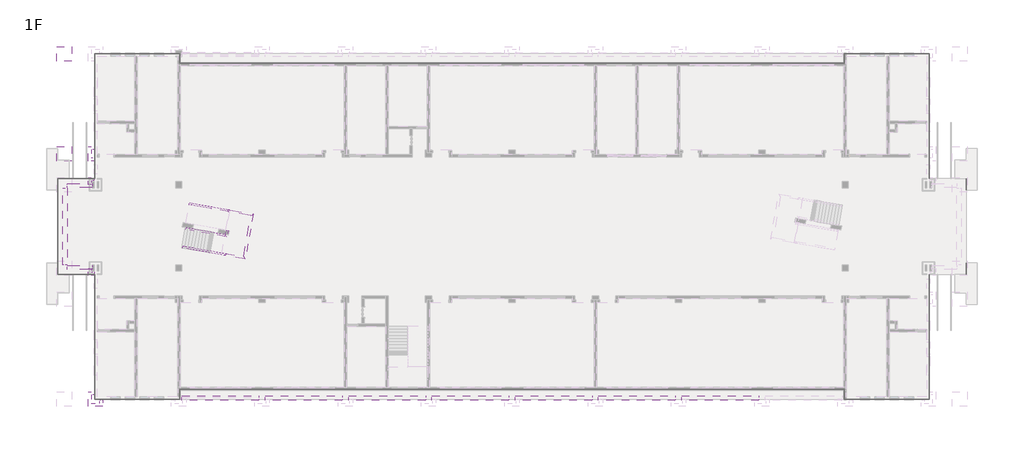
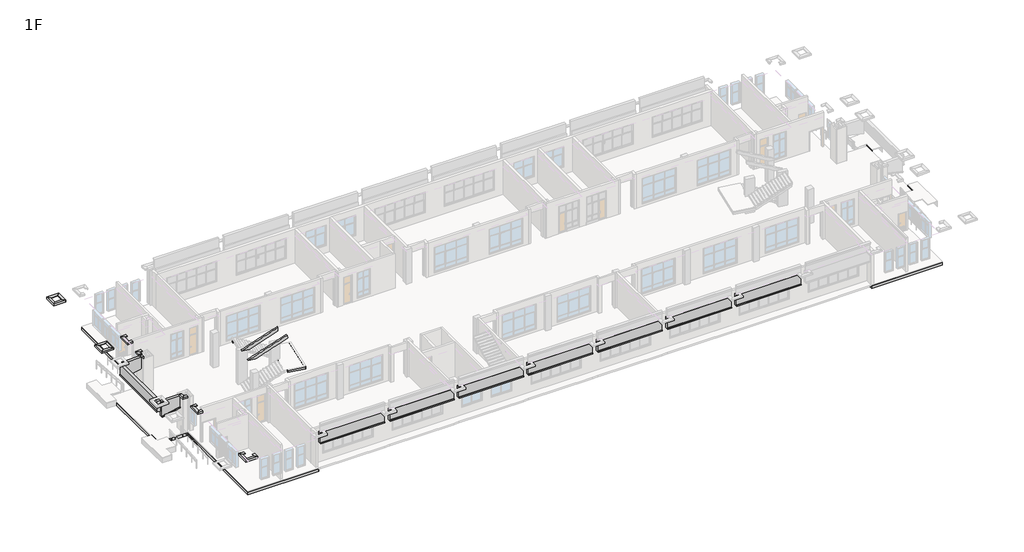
# One storey, part 14 of 16: 17 proxies, 7 members.
"""IFC4 building model written with IfcOpenShell, lengths in millimetres."""

from ifc_helpers import new_model, si_unit, frame, origin, place, context, project, spatial, polyline, outline, extrude, faceted_brep, triangles, transform, mapped, element, save
from components import generic_models_fbc45798, generic_models_8d5e0f0c, generic_models_1d46b465

model = new_model("IFC4")

# Units and contexts
model_context = context("Model", 3, world=origin())
ifc_project = project(units=[si_unit("LENGTHUNIT", "METRE", prefix="MILLI")], contexts=[model_context])

# Site, building, storey
site = spatial("IfcSite", under=ifc_project)
building = spatial("IfcBuilding", under=site)
storey = spatial("IfcBuildingStorey", under=building, Name="1F", Elevation=0.0)

# Proxies
placement = place(None, origin())
element("IfcBuildingElementProxy", 1, Name="Building Element Proxy", at=placement, inside=storey, context=model_context, shape_type="Tessellation", body=[
    triangles([(86599.9977539, 20099.6894165, -120.1595261), (86599.9977539, 20099.6894165, 149.8404724), (86599.9977539, 21199.3967102, -120.1595261), (86599.9977539, 21199.3967102, 149.8404724)], [[1, 4, 2], [1, 3, 4]], closed=False),
    triangles([(86599.9977539, 12000.6035431, -120.1595261), (86599.9977539, 12000.6035431, 149.8404724), (86599.9977539, 13100.3096741, -120.1595261), (86599.9977539, 13100.3096741, 149.8404724)], [[1, 4, 2], [1, 3, 4]], closed=False),
    triangles([(-600.0000046, 13100.3096741, -120.1595261), (-600.0000046, 13100.3096741, 149.8404724), (-600.0000046, 12000.6035431, -120.1595261), (-600.0000046, 12000.6035431, 149.8404724)], [[1, 4, 2], [1, 3, 4]], closed=False),
    triangles([(-600.0000046, 21199.3967102, -120.1595261), (-600.0000046, 21199.3967102, 149.8404724), (-600.0000046, 20099.6894165, -120.1595261), (-600.0000046, 20099.6894165, 149.8404724)], [[1, 4, 2], [1, 3, 4]], closed=False),
    triangles([(-600.0000046, 12000.6035431, -120.1595261), (-600.0000046, 12000.6035431, -450.0000034), (2949.9998772, 12000.6035431, -120.1595261), (2949.9998772, 12000.6035431, -450.0000034), (2949.9998772, 0.3045361, -120.1595261), (2949.9998772, 0.3045361, -450.0000034), (11100.0003754, 0.3045361, -120.1595261), (11100.0003754, 0.3045361, -450.0000034), (11100.0003754, 917.9999983, -120.1595261), (11100.0003754, 917.9999983, -450.0000034), (74900.0002808, 917.9999983, -120.1595261), (74900.0002808, 917.9999983, -450.0000034), (74900.0002808, 0.3045358, -120.1595261), (74900.0002808, 0.3045358, -450.0000034), (83050.0004883, 0.3045358, -120.1595261), (83050.0004883, 0.3045358, -450.0000034), (83050.0004883, 12000.6035431, -120.1595261), (83050.0004883, 12000.6035431, -450.0000034)], [[1, 4, 2], [1, 3, 4], [3, 6, 4], [3, 5, 6], [5, 8, 6], [5, 7, 8], [7, 10, 8], [7, 9, 10], [9, 12, 10], [9, 11, 12], [11, 14, 12], [11, 13, 14], [13, 16, 14], [13, 15, 16], [15, 18, 16], [15, 17, 18]], closed=False),
    triangles([(-600.0000046, 20099.6894165, -120.1595261), (-600.0000046, 20099.6894165, -450.0000034), (-600.0000046, 13100.3096741, -120.1595261), (-600.0000046, 13100.3096741, -450.0000034)], [[1, 4, 2], [1, 3, 4]], closed=False),
    triangles([(-600.0000046, 21199.3967102, -120.1595261), (-600.0000046, 21199.3967102, -450.0000034), (2949.9998772, 21199.3967102, -120.1595261), (2949.9998772, 21199.3967102, -450.0000034), (2949.9998772, 33199.694458, -120.1595261), (2949.9998772, 33199.694458, -450.0000034), (11100.0003754, 33199.694458, -120.1595261), (11100.0003754, 33199.694458, -450.0000034), (11100.0003754, 32281.9993103, -120.1595261), (11100.0003754, 32281.9993103, -450.0000034), (74900.0002808, 32281.9993103, -120.1595261), (74900.0002808, 32281.9993103, -450.0000034), (74900.0002808, 33199.694458, -120.1595261), (74900.0002808, 33199.694458, -450.0000034), (83050.0004883, 33199.694458, -120.1595261), (83050.0004883, 33199.694458, -450.0000034), (83050.0004883, 21199.3967102, -120.1595261), (83050.0004883, 21199.3967102, -450.0000034)], [[1, 4, 2], [1, 3, 4], [3, 6, 4], [3, 5, 6], [5, 8, 6], [5, 7, 8], [7, 10, 8], [7, 9, 10], [9, 12, 10], [9, 11, 12], [11, 14, 12], [11, 13, 14], [13, 16, 14], [13, 15, 16], [15, 18, 16], [15, 17, 18]], closed=False),
    triangles([(-600.0000046, 12000.6035431, -120.1595261), (-600.0000046, 12000.6035431, -450.0000034), (2949.9998772, 12000.6035431, -120.1595261), (2949.9998772, 12000.6035431, -450.0000034), (2949.9998772, 0.3045361, -120.1595261), (2949.9998772, 0.3045361, -450.0000034), (11100.0003754, 0.3045361, -120.1595261), (11100.0003754, 0.3045361, -450.0000034), (11100.0003754, 917.9999983, -120.1595261), (11100.0003754, 917.9999983, -450.0000034), (74900.0002808, 917.9999983, -120.1595261), (74900.0002808, 917.9999983, -450.0000034), (74900.0002808, 0.3045358, -120.1595261), (74900.0002808, 0.3045358, -450.0000034), (83050.0004883, 0.3045358, -120.1595261), (83050.0004883, 0.3045358, -450.0000034), (83050.0004883, 12000.6035431, -120.1595261), (83050.0004883, 12000.6035431, -450.0000034)], [[1, 4, 2], [1, 3, 4], [3, 6, 4], [3, 5, 6], [5, 8, 6], [5, 7, 8], [7, 10, 8], [7, 9, 10], [9, 12, 10], [9, 11, 12], [11, 14, 12], [11, 13, 14], [13, 16, 14], [13, 15, 16], [15, 18, 16], [15, 17, 18]], closed=False),
    triangles([(-600.0000046, 20099.6894165, -120.1595261), (-600.0000046, 20099.6894165, -450.0000034), (-600.0000046, 13100.3096741, -120.1595261), (-600.0000046, 13100.3096741, -450.0000034)], [[1, 4, 2], [1, 3, 4]], closed=False),
    triangles([(83050.0004883, 21199.3967102, -120.1595261), (83050.0004883, 21199.3967102, -450.0000034), (83050.0004883, 33199.694458, -120.1595261), (83050.0004883, 33199.694458, -450.0000034), (74900.0002808, 33199.694458, -120.1595261), (74900.0002808, 33199.694458, -450.0000034), (74900.0002808, 32281.9993103, -120.1595261), (74900.0002808, 32281.9993103, -450.0000034), (11100.0003754, 32281.9993103, -120.1595261), (11100.0003754, 32281.9993103, -450.0000034), (11100.0003754, 33199.694458, -120.1595261), (11100.0003754, 33199.694458, -450.0000034), (2949.9998772, 33199.694458, -120.1595261), (2949.9998772, 33199.694458, -450.0000034), (2949.9998772, 21199.3967102, -120.1595261), (2949.9998772, 21199.3967102, -450.0000034), (-600.0000046, 21199.3967102, -120.1595261), (-600.0000046, 21199.3967102, -450.0000034)], [[1, 4, 2], [1, 3, 4], [3, 6, 4], [3, 5, 6], [5, 8, 6], [5, 7, 8], [7, 10, 8], [7, 9, 10], [9, 12, 10], [9, 11, 12], [11, 14, 12], [11, 13, 14], [13, 16, 14], [13, 15, 16], [15, 18, 16], [15, 17, 18]], closed=False),
    triangles([(86599.9977539, 20099.6894165, -120.1595261), (86599.9977539, 20099.6894165, 149.8404724), (86599.9977539, 21199.3967102, -120.1595261), (86599.9977539, 21199.3967102, 149.8404724)], [[1, 4, 2], [1, 3, 4]], closed=False),
    triangles([(86599.9977539, 12000.6035431, -120.1595261), (86599.9977539, 12000.6035431, 149.8404724), (86599.9977539, 13100.3096741, -120.1595261), (86599.9977539, 13100.3096741, 149.8404724)], [[1, 4, 2], [1, 3, 4]], closed=False),
    triangles([(-600.0000046, 13100.3096741, -120.1595261), (-600.0000046, 13100.3096741, 149.8404724), (-600.0000046, 12000.6035431, -120.1595261), (-600.0000046, 12000.6035431, 149.8404724)], [[1, 4, 2], [1, 3, 4]], closed=False),
    triangles([(-600.0000046, 21199.3967102, -120.1595261), (-600.0000046, 21199.3967102, 149.8404724), (-600.0000046, 20099.6894165, -120.1595261), (-600.0000046, 20099.6894165, 149.8404724)], [[1, 4, 2], [1, 3, 4]], closed=False),
    triangles([(83050.0004883, 21199.3967102, -120.1595261), (83050.0004883, 33199.694458, -120.1595261), (74900.0002808, 33199.694458, -120.1595261), (74900.0002808, 32281.9993103, -120.1595261), (11100.0003754, 32281.9993103, -120.1595261), (11100.0003754, 33199.694458, -120.1595261), (2949.9998772, 33199.694458, -120.1595261), (2949.9998772, 21199.3967102, -120.1595261), (-600.0000046, 21199.3967102, -120.1595261), (-600.0000046, 12000.6035431, -120.1595261), (2949.9998772, 12000.6035431, -120.1595261), (2949.9998772, 0.3045361, -120.1595261), (11100.0003754, 0.3045361, -120.1595261), (11100.0003754, 917.9999983, -120.1595261), (74900.0002808, 917.9999983, -120.1595261), (74900.0002808, 0.3045358, -120.1595261), (83050.0004883, 0.3045358, -120.1595261), (83050.0004883, 12000.6035431, -120.1595261), (86599.9977539, 12000.6035431, -120.1595261), (86599.9977539, 21199.3967102, -120.1595261)], [[12, 14, 11], [14, 12, 13], [11, 14, 5], [10, 11, 8], [5, 6, 7], [5, 8, 11], [5, 7, 8], [9, 10, 8], [14, 15, 5], [15, 16, 17], [17, 18, 15], [18, 19, 1], [15, 18, 4], [3, 4, 2], [20, 1, 19], [1, 2, 4], [4, 18, 1], [15, 4, 5]], closed=False),
])
generic_models_shape = generic_models_fbc45798(model_context)
element("IfcBuildingElementProxy", 2, Name="走廊板 : h=300mm", ObjectType="走廊板 : h=300mm", at=placement, inside=storey, context=model_context, shape_type="MappedRepresentation", body=[
    mapped(generic_models_shape, transform((116.9999988, 20300.0, 4200.0), x_axis=(0.0, -1.0, 0.0), y_axis=(1.0, 0.0, 0.0), z_axis=(0.0, 0.0, 1.0))),
])
element("IfcBuildingElementProxy", 3, Name="走廊板 : h=300mm", ObjectType="走廊板 : h=300mm", at=placement, inside=storey, context=model_context, shape_type="MappedRepresentation", body=[
    mapped(generic_models_shape, transform((11300.0, 150.0, 4200.0), x_axis=(1.0, 0.0, 0.0), y_axis=(0.0, 1.0, 0.0), z_axis=(0.0, 0.0, 1.0))),
])
element("IfcBuildingElementProxy", 4, Name="走廊板 : h=300mm", ObjectType="走廊板 : h=300mm", at=placement, inside=storey, context=model_context, shape_type="MappedRepresentation", body=[
    mapped(generic_models_shape, transform((19300.0, 150.0, 4200.0), x_axis=(1.0, 0.0, 0.0), y_axis=(0.0, 1.0, 0.0), z_axis=(0.0, 0.0, 1.0))),
])
element("IfcBuildingElementProxy", 5, Name="走廊板 : h=300mm", ObjectType="走廊板 : h=300mm", at=placement, inside=storey, context=model_context, shape_type="MappedRepresentation", body=[
    mapped(generic_models_shape, transform((27300.0, 150.0, 4200.0), x_axis=(1.0, 0.0, 0.0), y_axis=(0.0, 1.0, 0.0), z_axis=(0.0, 0.0, 1.0))),
])
element("IfcBuildingElementProxy", 6, Name="走廊板 : h=300mm", ObjectType="走廊板 : h=300mm", at=placement, inside=storey, context=model_context, shape_type="MappedRepresentation", body=[
    mapped(generic_models_shape, transform((35300.0, 150.0, 4200.0), x_axis=(1.0, 0.0, 0.0), y_axis=(0.0, 1.0, 0.0), z_axis=(0.0, 0.0, 1.0))),
])
element("IfcBuildingElementProxy", 7, Name="走廊板 : h=300mm", ObjectType="走廊板 : h=300mm", at=placement, inside=storey, context=model_context, shape_type="MappedRepresentation", body=[
    mapped(generic_models_shape, transform((43300.0, 150.0, 4200.0), x_axis=(1.0, 0.0, 0.0), y_axis=(0.0, 1.0, 0.0), z_axis=(0.0, 0.0, 1.0))),
])
element("IfcBuildingElementProxy", 8, Name="走廊板 : h=300mm", ObjectType="走廊板 : h=300mm", at=placement, inside=storey, context=model_context, shape_type="MappedRepresentation", body=[
    mapped(generic_models_shape, transform((51300.0, 150.0, 4200.0), x_axis=(1.0, 0.0, 0.0), y_axis=(0.0, 1.0, 0.0), z_axis=(0.0, 0.0, 1.0))),
])
element("IfcBuildingElementProxy", 9, Name="走廊板 : h=300mm", ObjectType="走廊板 : h=300mm", at=placement, inside=storey, context=model_context, shape_type="MappedRepresentation", body=[
    mapped(generic_models_shape, transform((59300.0, 150.0, 4200.0), x_axis=(1.0, 0.0, 0.0), y_axis=(0.0, 1.0, 0.0), z_axis=(0.0, 0.0, 1.0))),
])
generic_models_2_shape = generic_models_8d5e0f0c(model_context)
element("IfcBuildingElementProxy", 10, Name="走廊板 : h=300mm", ObjectType="走廊板 : h=300mm", at=placement, inside=storey, context=model_context, shape_type="MappedRepresentation", body=[
    mapped(generic_models_2_shape, transform((300.0, 12716.6954636, 4200.0), x_axis=(1.0, 0.0, 0.0), y_axis=(0.0, 1.0, 0.0), z_axis=(0.0, 0.0, 1.0))),
])
generic_models_3_shape = generic_models_1d46b465(model_context)
element("IfcBuildingElementProxy", 11, Name="走廊板 : h=300mm", ObjectType="走廊板 : h=300mm", at=placement, inside=storey, context=model_context, shape_type="MappedRepresentation", body=[
    mapped(generic_models_3_shape, transform((300.0, 20483.3045364, 4200.0), x_axis=(1.0, 0.0, 0.0), y_axis=(0.0, 1.0, 0.0), z_axis=(0.0, 0.0, 1.0))),
])
element("IfcBuildingElementProxy", 12, Name="QS1", ObjectType="QS1", at=placement, inside=storey, context=model_context, shape_type="Brep", body=[
    faceted_brep([(700.0, 32499.3961574, 4200.0), (600.0, 32599.3961574, 4200.0), (600.0, 32599.3961574, 4250.0), (650.0, 32549.3961574, 4250.0), (650.0, 32549.3961574, 4350.0), (400.0, 32799.3961574, 4350.0), (400.0, 32799.3961574, 4400.0), (700.0, 32499.3961574, 4400.0), (-700.0000001, 32499.3961574, 4200.0), (-700.0000001, 32499.3961574, 4400.0), (-400.0000001, 32799.3961574, 4400.0), (-400.0000001, 32799.3961574, 4350.0), (-650.0000001, 32549.3961574, 4350.0), (-650.0000001, 32549.3961574, 4250.0), (-600.0000001, 32599.3961574, 4250.0), (-600.0000001, 32599.3961574, 4200.0)], [[[0, 1, 2, 3, 4, 5, 6, 7]], [[8, 9, 10, 11, 12, 13, 14, 15]], [[1, 0, 8, 15]], [[2, 1, 15, 14]], [[3, 2, 14, 13]], [[4, 3, 13, 12]], [[5, 4, 12, 11]], [[6, 5, 11, 10]], [[7, 6, 10, 9]], [[0, 7, 9, 8]]]),
    faceted_brep([(-700.0000001, 32499.3961574, 4200.0), (-600.0000001, 32599.3961574, 4200.0), (-600.0000001, 32599.3961574, 4250.0), (-650.0000001, 32549.3961574, 4250.0), (-650.0000001, 32549.3961574, 4350.0), (-400.0000001, 32799.3961574, 4350.0), (-400.0000001, 32799.3961574, 4400.0), (-700.0000001, 32499.3961574, 4400.0), (-700.0000001, 33899.3961574, 4200.0), (-700.0000001, 33899.3961574, 4400.0), (-400.0000001, 33599.3961574, 4400.0), (-400.0000001, 33599.3961574, 4350.0), (-650.0000001, 33849.3961574, 4350.0), (-650.0000001, 33849.3961574, 4250.0), (-600.0000001, 33799.3961574, 4250.0), (-600.0000001, 33799.3961574, 4200.0)], [[[0, 1, 2, 3, 4, 5, 6, 7]], [[8, 9, 10, 11, 12, 13, 14, 15]], [[1, 0, 8, 15]], [[2, 1, 15, 14]], [[3, 2, 14, 13]], [[4, 3, 13, 12]], [[5, 4, 12, 11]], [[6, 5, 11, 10]], [[7, 6, 10, 9]], [[0, 7, 9, 8]]]),
    faceted_brep([(-700.0000001, 33899.3961574, 4200.0), (-600.0000001, 33799.3961574, 4200.0), (-600.0000001, 33799.3961574, 4250.0), (-650.0000001, 33849.3961574, 4250.0), (-650.0000001, 33849.3961574, 4350.0), (-400.0000001, 33599.3961574, 4350.0), (-400.0000001, 33599.3961574, 4400.0), (-700.0000001, 33899.3961574, 4400.0), (700.0, 33899.3961574, 4200.0), (700.0, 33899.3961574, 4400.0), (400.0, 33599.3961574, 4400.0), (400.0, 33599.3961574, 4350.0), (650.0, 33849.3961574, 4350.0), (650.0, 33849.3961574, 4250.0), (600.0, 33799.3961574, 4250.0), (600.0, 33799.3961574, 4200.0)], [[[0, 1, 2, 3, 4, 5, 6, 7]], [[8, 9, 10, 11, 12, 13, 14, 15]], [[1, 0, 8, 15]], [[2, 1, 15, 14]], [[3, 2, 14, 13]], [[4, 3, 13, 12]], [[5, 4, 12, 11]], [[6, 5, 11, 10]], [[7, 6, 10, 9]], [[0, 7, 9, 8]]]),
    faceted_brep([(700.0, 33899.3961574, 4200.0), (600.0, 33799.3961574, 4200.0), (600.0, 33799.3961574, 4250.0), (650.0, 33849.3961574, 4250.0), (650.0, 33849.3961574, 4350.0), (400.0, 33599.3961574, 4350.0), (400.0, 33599.3961574, 4400.0), (700.0, 33899.3961574, 4400.0), (700.0, 32499.3961574, 4200.0), (700.0, 32499.3961574, 4400.0), (400.0, 32799.3961574, 4400.0), (400.0, 32799.3961574, 4350.0), (650.0, 32549.3961574, 4350.0), (650.0, 32549.3961574, 4250.0), (600.0, 32599.3961574, 4250.0), (600.0, 32599.3961574, 4200.0)], [[[0, 1, 2, 3, 4, 5, 6, 7]], [[8, 9, 10, 11, 12, 13, 14, 15]], [[1, 0, 8, 15]], [[2, 1, 15, 14]], [[3, 2, 14, 13]], [[4, 3, 13, 12]], [[5, 4, 12, 11]], [[6, 5, 11, 10]], [[7, 6, 10, 9]], [[0, 7, 9, 8]]]),
])
element("IfcBuildingElementProxy", 13, Name="QS1", ObjectType="QS1", at=placement, inside=storey, context=model_context, shape_type="Brep", body=[
    faceted_brep([(-700.0000001, 22899.3961574, 4200.0), (-600.0000001, 22999.3961574, 4200.0), (-600.0000001, 22999.3961574, 4250.0), (-650.0000001, 22949.3961574, 4250.0), (-650.0000001, 22949.3961574, 4350.0), (-400.0000001, 23199.3961574, 4350.0), (-400.0000001, 23199.3961574, 4400.0), (-700.0000001, 22899.3961574, 4400.0), (-700.0000001, 24299.3961574, 4200.0), (-700.0000001, 24299.3961574, 4400.0), (-400.0000001, 23999.3961574, 4400.0), (-400.0000001, 23999.3961574, 4350.0), (-650.0000001, 24249.3961574, 4350.0), (-650.0000001, 24249.3961574, 4250.0), (-600.0000001, 24199.3961574, 4250.0), (-600.0000001, 24199.3961574, 4200.0)], [[[0, 1, 2, 3, 4, 5, 6, 7]], [[8, 9, 10, 11, 12, 13, 14, 15]], [[1, 0, 8, 15]], [[2, 1, 15, 14]], [[3, 2, 14, 13]], [[4, 3, 13, 12]], [[5, 4, 12, 11]], [[6, 5, 11, 10]], [[7, 6, 10, 9]], [[0, 7, 9, 8]]]),
    faceted_brep([(-700.0000001, 24299.3961574, 4200.0), (-600.0000001, 24199.3961574, 4200.0), (-600.0000001, 24199.3961574, 4250.0), (-650.0000001, 24249.3961574, 4250.0), (-650.0000001, 24249.3961574, 4350.0), (-400.0000001, 23999.3961574, 4350.0), (-400.0000001, 23999.3961574, 4400.0), (-700.0000001, 24299.3961574, 4400.0), (700.0, 24299.3961574, 4200.0), (700.0, 24299.3961574, 4400.0), (400.0, 23999.3961574, 4400.0), (400.0, 23999.3961574, 4350.0), (650.0, 24249.3961574, 4350.0), (650.0, 24249.3961574, 4250.0), (600.0, 24199.3961574, 4250.0), (600.0, 24199.3961574, 4200.0)], [[[0, 1, 2, 3, 4, 5, 6, 7]], [[8, 9, 10, 11, 12, 13, 14, 15]], [[1, 0, 8, 15]], [[2, 1, 15, 14]], [[3, 2, 14, 13]], [[4, 3, 13, 12]], [[5, 4, 12, 11]], [[6, 5, 11, 10]], [[7, 6, 10, 9]], [[0, 7, 9, 8]]]),
    faceted_brep([(700.0, 22899.3961574, 4200.0), (600.0, 22999.3961574, 4200.0), (600.0, 22999.3961574, 4250.0), (650.0, 22949.3961574, 4250.0), (650.0, 22949.3961574, 4350.0), (400.0, 23199.3961574, 4350.0), (400.0, 23199.3961574, 4400.0), (700.0, 22899.3961574, 4400.0), (-700.0000001, 22899.3961574, 4200.0), (-700.0000001, 22899.3961574, 4400.0), (-400.0000001, 23199.3961574, 4400.0), (-400.0000001, 23199.3961574, 4350.0), (-650.0000001, 22949.3961574, 4350.0), (-650.0000001, 22949.3961574, 4250.0), (-600.0000001, 22999.3961574, 4250.0), (-600.0000001, 22999.3961574, 4200.0)], [[[0, 1, 2, 3, 4, 5, 6, 7]], [[8, 9, 10, 11, 12, 13, 14, 15]], [[1, 0, 8, 15]], [[2, 1, 15, 14]], [[3, 2, 14, 13]], [[4, 3, 13, 12]], [[5, 4, 12, 11]], [[6, 5, 11, 10]], [[7, 6, 10, 9]], [[0, 7, 9, 8]]]),
    faceted_brep([(700.0, 24299.3961574, 4200.0), (600.0, 24199.3961574, 4200.0), (600.0, 24199.3961574, 4250.0), (650.0, 24249.3961574, 4250.0), (650.0, 24249.3961574, 4350.0), (400.0, 23999.3961574, 4350.0), (400.0, 23999.3961574, 4400.0), (700.0, 24299.3961574, 4400.0), (700.0, 22899.3961574, 4200.0), (700.0, 22899.3961574, 4400.0), (400.0, 23199.3961574, 4400.0), (400.0, 23199.3961574, 4350.0), (650.0, 22949.3961574, 4350.0), (650.0, 22949.3961574, 4250.0), (600.0, 22999.3961574, 4250.0), (600.0, 22999.3961574, 4200.0)], [[[0, 1, 2, 3, 4, 5, 6, 7]], [[8, 9, 10, 11, 12, 13, 14, 15]], [[1, 0, 8, 15]], [[2, 1, 15, 14]], [[3, 2, 14, 13]], [[4, 3, 13, 12]], [[5, 4, 12, 11]], [[6, 5, 11, 10]], [[7, 6, 10, 9]], [[0, 7, 9, 8]]]),
])
element("IfcBuildingElementProxy", 14, Name="QS1", ObjectType="QS1", at=placement, inside=storey, context=model_context, shape_type="Brep", body=[
    faceted_brep([(2299.9999999, 22899.6954638, 4200.0), (2299.9999999, 22899.6954638, 4400.0), (2599.9999999, 23199.6954638, 4400.0), (2599.9999999, 23199.6954638, 4350.0), (2349.9999999, 22949.6954638, 4350.0), (2349.9999999, 22949.6954638, 4250.0), (2399.9999999, 22999.6954638, 4250.0), (2399.9999999, 22999.6954638, 4200.0), (2897.0000005, 22899.6954638, 4200.0), (2897.0000005, 22999.6954638, 4200.0), (2897.0000005, 22999.6954638, 4250.0), (2897.0000005, 22949.6954638, 4250.0), (2897.0000005, 22949.6954638, 4350.0), (2897.0000005, 23199.6954638, 4350.0), (2897.0000005, 23199.6954638, 4400.0), (2897.0000005, 22899.6954638, 4400.0)], [[[0, 1, 2, 3, 4, 5, 6, 7]], [[8, 9, 10, 11, 12, 13, 14, 15]], [[1, 0, 8, 15]], [[2, 1, 15, 14]], [[3, 2, 14, 13]], [[4, 3, 13, 12]], [[5, 4, 12, 11]], [[6, 5, 11, 10]], [[7, 6, 10, 9]], [[0, 7, 9, 8]]]),
    faceted_brep([(2299.9999999, 24299.6954638, 4200.0), (2299.9999999, 24299.6954638, 4400.0), (2599.9999999, 23999.6954638, 4400.0), (2599.9999999, 23999.6954638, 4350.0), (2349.9999999, 24249.6954638, 4350.0), (2349.9999999, 24249.6954638, 4250.0), (2399.9999999, 24199.6954638, 4250.0), (2399.9999999, 24199.6954638, 4200.0), (2299.9999999, 22899.6954638, 4200.0), (2399.9999999, 22999.6954638, 4200.0), (2399.9999999, 22999.6954638, 4250.0), (2349.9999999, 22949.6954638, 4250.0), (2349.9999999, 22949.6954638, 4350.0), (2599.9999999, 23199.6954638, 4350.0), (2599.9999999, 23199.6954638, 4400.0), (2299.9999999, 22899.6954638, 4400.0)], [[[0, 1, 2, 3, 4, 5, 6, 7]], [[8, 9, 10, 11, 12, 13, 14, 15]], [[1, 0, 8, 15]], [[2, 1, 15, 14]], [[3, 2, 14, 13]], [[4, 3, 13, 12]], [[5, 4, 12, 11]], [[6, 5, 11, 10]], [[7, 6, 10, 9]], [[0, 7, 9, 8]]]),
    faceted_brep([(2897.0000005, 24299.6954638, 4200.0), (2897.0000005, 24299.6954638, 4400.0), (2897.0000005, 23999.6954638, 4400.0), (2897.0000005, 23999.6954638, 4350.0), (2897.0000005, 24249.6954638, 4350.0), (2897.0000005, 24249.6954638, 4250.0), (2897.0000005, 24199.6954638, 4250.0), (2897.0000005, 24199.6954638, 4200.0), (2299.9999999, 24299.6954638, 4200.0), (2399.9999999, 24199.6954638, 4200.0), (2399.9999999, 24199.6954638, 4250.0), (2349.9999999, 24249.6954638, 4250.0), (2349.9999999, 24249.6954638, 4350.0), (2599.9999999, 23999.6954638, 4350.0), (2599.9999999, 23999.6954638, 4400.0), (2299.9999999, 24299.6954638, 4400.0)], [[[0, 1, 2, 3, 4, 5, 6, 7]], [[8, 9, 10, 11, 12, 13, 14, 15]], [[1, 0, 8, 15]], [[2, 1, 15, 14]], [[3, 2, 14, 13]], [[4, 3, 13, 12]], [[5, 4, 12, 11]], [[6, 5, 11, 10]], [[7, 6, 10, 9]], [[0, 7, 9, 8]]]),
])
element("IfcBuildingElementProxy", 15, Name="QS1", ObjectType="QS1", at=placement, inside=storey, context=model_context, shape_type="Brep", body=[
    faceted_brep([(2897.0000005, 21299.6902344, 4200.0), (2897.0000005, 21299.6902344, 4400.0), (2897.0000005, 20999.6902344, 4400.0), (2897.0000005, 20999.6902344, 4350.0), (2897.0000005, 21249.6902344, 4350.0), (2897.0000005, 21249.6902344, 4250.0), (2897.0000005, 21199.6902344, 4250.0), (2897.0000005, 21199.6902344, 4200.0), (2299.9999999, 21299.6902344, 4200.0), (2399.9999999, 21199.6902344, 4200.0), (2399.9999999, 21199.6902344, 4250.0), (2349.9999999, 21249.6902344, 4250.0), (2349.9999999, 21249.6902344, 4350.0), (2599.9999999, 20999.6902344, 4350.0), (2599.9999999, 20999.6902344, 4400.0), (2299.9999999, 21299.6902344, 4400.0)], [[[0, 1, 2, 3, 4, 5, 6, 7]], [[8, 9, 10, 11, 12, 13, 14, 15]], [[1, 0, 8, 15]], [[2, 1, 15, 14]], [[3, 2, 14, 13]], [[4, 3, 13, 12]], [[5, 4, 12, 11]], [[6, 5, 11, 10]], [[7, 6, 10, 9]], [[0, 7, 9, 8]]]),
    faceted_brep([(2299.9999999, 21299.6902344, 4200.0), (2299.9999999, 21299.6902344, 4400.0), (2599.9999999, 20999.6902344, 4400.0), (2599.9999999, 20999.6902344, 4350.0), (2349.9999999, 21249.6902344, 4350.0), (2349.9999999, 21249.6902344, 4250.0), (2399.9999999, 21199.6902344, 4250.0), (2399.9999999, 21199.6902344, 4200.0), (2299.9999999, 20632.7242304, 4200.0), (2399.9999999, 20632.7242304, 4200.0), (2399.9999999, 20632.7242304, 4250.0), (2349.9999999, 20632.7242304, 4250.0), (2349.9999999, 20632.7242304, 4350.0), (2599.9999999, 20632.7242304, 4350.0), (2599.9999999, 20632.7242304, 4400.0), (2299.9999999, 20632.7242304, 4400.0)], [[[0, 1, 2, 3, 4, 5, 6, 7]], [[8, 9, 10, 11, 12, 13, 14, 15]], [[1, 0, 8, 15]], [[2, 1, 15, 14]], [[3, 2, 14, 13]], [[4, 3, 13, 12]], [[5, 4, 12, 11]], [[6, 5, 11, 10]], [[7, 6, 10, 9]], [[0, 7, 9, 8]]]),
])
element("IfcBuildingElementProxy", 16, Name="QS1", ObjectType="QS1", at=placement, inside=storey, context=model_context, shape_type="Brep", body=[
    faceted_brep([(2299.9999999, 11900.3097656, 4200.0), (2399.9999999, 12000.3097656, 4200.0), (2399.9999999, 12000.3097656, 4250.0), (2349.9999999, 11950.3097656, 4250.0), (2349.9999999, 11950.3097656, 4350.0), (2599.9999999, 12200.3097656, 4350.0), (2599.9999999, 12200.3097656, 4400.0), (2299.9999999, 11900.3097656, 4400.0), (2299.9999999, 12566.6954636, 4200.0), (2299.9999999, 12566.6954636, 4400.0), (2599.9999999, 12566.6954636, 4400.0), (2599.9999999, 12566.6954636, 4350.0), (2349.9999999, 12566.6954636, 4350.0), (2349.9999999, 12566.6954636, 4250.0), (2399.9999999, 12566.6954636, 4250.0), (2399.9999999, 12566.6954636, 4200.0)], [[[0, 1, 2, 3, 4, 5, 6, 7]], [[8, 9, 10, 11, 12, 13, 14, 15]], [[1, 0, 8, 15]], [[2, 1, 15, 14]], [[3, 2, 14, 13]], [[4, 3, 13, 12]], [[5, 4, 12, 11]], [[6, 5, 11, 10]], [[7, 6, 10, 9]], [[0, 7, 9, 8]]]),
    faceted_brep([(2897.0000005, 11900.3097656, 4200.0), (2897.0000005, 12000.3097656, 4200.0), (2897.0000005, 12000.3097656, 4250.0), (2897.0000005, 11950.3097656, 4250.0), (2897.0000005, 11950.3097656, 4350.0), (2897.0000005, 12200.3097656, 4350.0), (2897.0000005, 12200.3097656, 4400.0), (2897.0000005, 11900.3097656, 4400.0), (2299.9999999, 11900.3097656, 4200.0), (2299.9999999, 11900.3097656, 4400.0), (2599.9999999, 12200.3097656, 4400.0), (2599.9999999, 12200.3097656, 4350.0), (2349.9999999, 11950.3097656, 4350.0), (2349.9999999, 11950.3097656, 4250.0), (2399.9999999, 12000.3097656, 4250.0), (2399.9999999, 12000.3097656, 4200.0)], [[[0, 1, 2, 3, 4, 5, 6, 7]], [[8, 9, 10, 11, 12, 13, 14, 15]], [[1, 0, 8, 15]], [[2, 1, 15, 14]], [[3, 2, 14, 13]], [[4, 3, 13, 12]], [[5, 4, 12, 11]], [[6, 5, 11, 10]], [[7, 6, 10, 9]], [[0, 7, 9, 8]]]),
])
element("IfcBuildingElementProxy", 17, Name="QS1", ObjectType="QS1", at=placement, inside=storey, context=model_context, shape_type="Brep", body=[
    faceted_brep([(2299.9999999, 10300.3045362, 4200.0), (2399.9999999, 10200.3045362, 4200.0), (2399.9999999, 10200.3045362, 4250.0), (2349.9999999, 10250.3045362, 4250.0), (2349.9999999, 10250.3045362, 4350.0), (2599.9999999, 10000.3045362, 4350.0), (2599.9999999, 10000.3045362, 4400.0), (2299.9999999, 10300.3045362, 4400.0), (2897.0000005, 10300.3045362, 4200.0), (2897.0000005, 10300.3045362, 4400.0), (2897.0000005, 10000.3045362, 4400.0), (2897.0000005, 10000.3045362, 4350.0), (2897.0000005, 10250.3045362, 4350.0), (2897.0000005, 10250.3045362, 4250.0), (2897.0000005, 10200.3045362, 4250.0), (2897.0000005, 10200.3045362, 4200.0)], [[[0, 1, 2, 3, 4, 5, 6, 7]], [[8, 9, 10, 11, 12, 13, 14, 15]], [[1, 0, 8, 15]], [[2, 1, 15, 14]], [[3, 2, 14, 13]], [[4, 3, 13, 12]], [[5, 4, 12, 11]], [[6, 5, 11, 10]], [[7, 6, 10, 9]], [[0, 7, 9, 8]]]),
    faceted_brep([(2299.9999999, 8900.3045362, 4200.0), (2399.9999999, 9000.3045362, 4200.0), (2399.9999999, 9000.3045362, 4250.0), (2349.9999999, 8950.3045362, 4250.0), (2349.9999999, 8950.3045362, 4350.0), (2599.9999999, 9200.3045362, 4350.0), (2599.9999999, 9200.3045362, 4400.0), (2299.9999999, 8900.3045362, 4400.0), (2299.9999999, 10300.3045362, 4200.0), (2299.9999999, 10300.3045362, 4400.0), (2599.9999999, 10000.3045362, 4400.0), (2599.9999999, 10000.3045362, 4350.0), (2349.9999999, 10250.3045362, 4350.0), (2349.9999999, 10250.3045362, 4250.0), (2399.9999999, 10200.3045362, 4250.0), (2399.9999999, 10200.3045362, 4200.0)], [[[0, 1, 2, 3, 4, 5, 6, 7]], [[8, 9, 10, 11, 12, 13, 14, 15]], [[1, 0, 8, 15]], [[2, 1, 15, 14]], [[3, 2, 14, 13]], [[4, 3, 13, 12]], [[5, 4, 12, 11]], [[6, 5, 11, 10]], [[7, 6, 10, 9]], [[0, 7, 9, 8]]]),
    faceted_brep([(2897.0000005, 8900.3045362, 4200.0), (2897.0000005, 9000.3045362, 4200.0), (2897.0000005, 9000.3045362, 4250.0), (2897.0000005, 8950.3045362, 4250.0), (2897.0000005, 8950.3045362, 4350.0), (2897.0000005, 9200.3045362, 4350.0), (2897.0000005, 9200.3045362, 4400.0), (2897.0000005, 8900.3045362, 4400.0), (2299.9999999, 8900.3045362, 4200.0), (2299.9999999, 8900.3045362, 4400.0), (2599.9999999, 9200.3045362, 4400.0), (2599.9999999, 9200.3045362, 4350.0), (2349.9999999, 8950.3045362, 4350.0), (2349.9999999, 8950.3045362, 4250.0), (2399.9999999, 9000.3045362, 4250.0), (2399.9999999, 9000.3045362, 4200.0)], [[[0, 1, 2, 3, 4, 5, 6, 7]], [[8, 9, 10, 11, 12, 13, 14, 15]], [[1, 0, 8, 15]], [[2, 1, 15, 14]], [[3, 2, 14, 13]], [[4, 3, 13, 12]], [[5, 4, 12, 11]], [[6, 5, 11, 10]], [[7, 6, 10, 9]], [[0, 7, 9, 8]]]),
    faceted_brep([(3700.0000001, -699.6954638, 4200.0), (3700.0000001, -699.6954638, 4400.0), (3400.0000001, -399.6954638, 4400.0), (3400.0000001, -399.6954638, 4350.0), (3650.0000001, -649.6954638, 4350.0), (3650.0000001, -649.6954638, 4250.0), (3600.0000001, -599.6954638, 4250.0), (3600.0000001, -599.6954638, 4200.0), (3700.0000001, -52.6954639, 4200.0), (3600.0000001, -52.6954639, 4200.0), (3600.0000001, -52.6954639, 4250.0), (3650.0000001, -52.6954639, 4250.0), (3650.0000001, -52.6954639, 4350.0), (3400.0000001, -52.6954639, 4350.0), (3400.0000001, -52.6954639, 4400.0), (3700.0000001, -52.6954639, 4400.0)], [[[0, 1, 2, 3, 4, 5, 6, 7]], [[8, 9, 10, 11, 12, 13, 14, 15]], [[1, 0, 8, 15]], [[2, 1, 15, 14]], [[3, 2, 14, 13]], [[4, 3, 13, 12]], [[5, 4, 12, 11]], [[6, 5, 11, 10]], [[7, 6, 10, 9]], [[0, 7, 9, 8]]]),
    faceted_brep([(2300.0000001, -699.6954638, 4200.0), (2300.0000001, -699.6954638, 4400.0), (2600.0000001, -399.6954638, 4400.0), (2600.0000001, -399.6954638, 4350.0), (2350.0000001, -649.6954638, 4350.0), (2350.0000001, -649.6954638, 4250.0), (2400.0000001, -599.6954638, 4250.0), (2400.0000001, -599.6954638, 4200.0), (3700.0000001, -699.6954638, 4200.0), (3600.0000001, -599.6954638, 4200.0), (3600.0000001, -599.6954638, 4250.0), (3650.0000001, -649.6954638, 4250.0), (3650.0000001, -649.6954638, 4350.0), (3400.0000001, -399.6954638, 4350.0), (3400.0000001, -399.6954638, 4400.0), (3700.0000001, -699.6954638, 4400.0)], [[[0, 1, 2, 3, 4, 5, 6, 7]], [[8, 9, 10, 11, 12, 13, 14, 15]], [[1, 0, 8, 15]], [[2, 1, 15, 14]], [[3, 2, 14, 13]], [[4, 3, 13, 12]], [[5, 4, 12, 11]], [[6, 5, 11, 10]], [[7, 6, 10, 9]], [[0, 7, 9, 8]]]),
    faceted_brep([(2300.0000001, 700.3045362, 4200.0), (2300.0000001, 700.3045362, 4400.0), (2600.0000001, 400.3045362, 4400.0), (2600.0000001, 400.3045362, 4350.0), (2350.0000001, 650.3045362, 4350.0), (2350.0000001, 650.3045362, 4250.0), (2400.0000001, 600.3045362, 4250.0), (2400.0000001, 600.3045362, 4200.0), (2300.0000001, -699.6954638, 4200.0), (2400.0000001, -599.6954638, 4200.0), (2400.0000001, -599.6954638, 4250.0), (2350.0000001, -649.6954638, 4250.0), (2350.0000001, -649.6954638, 4350.0), (2600.0000001, -399.6954638, 4350.0), (2600.0000001, -399.6954638, 4400.0), (2300.0000001, -699.6954638, 4400.0)], [[[0, 1, 2, 3, 4, 5, 6, 7]], [[8, 9, 10, 11, 12, 13, 14, 15]], [[1, 0, 8, 15]], [[2, 1, 15, 14]], [[3, 2, 14, 13]], [[4, 3, 13, 12]], [[5, 4, 12, 11]], [[6, 5, 11, 10]], [[7, 6, 10, 9]], [[0, 7, 9, 8]]]),
    faceted_brep([(2897.0000002, 700.3045362, 4200.0), (2897.0000002, 700.3045362, 4400.0), (2897.0000002, 400.3045362, 4400.0), (2897.0000002, 400.3045362, 4350.0), (2897.0000002, 650.3045362, 4350.0), (2897.0000002, 650.3045362, 4250.0), (2897.0000002, 600.3045362, 4250.0), (2897.0000002, 600.3045362, 4200.0), (2300.0000001, 700.3045362, 4200.0), (2400.0000001, 600.3045362, 4200.0), (2400.0000001, 600.3045362, 4250.0), (2350.0000001, 650.3045362, 4250.0), (2350.0000001, 650.3045362, 4350.0), (2600.0000001, 400.3045362, 4350.0), (2600.0000001, 400.3045362, 4400.0), (2300.0000001, 700.3045362, 4400.0)], [[[0, 1, 2, 3, 4, 5, 6, 7]], [[8, 9, 10, 11, 12, 13, 14, 15]], [[1, 0, 8, 15]], [[2, 1, 15, 14]], [[3, 2, 14, 13]], [[4, 3, 13, 12]], [[5, 4, 12, 11]], [[6, 5, 11, 10]], [[7, 6, 10, 9]], [[0, 7, 9, 8]]]),
])

# Members
element("IfcMember", 18, ObjectType="梯边梁 - 200mm 宽度", at=placement, inside=storey, context=model_context, shape_type="Brep", body=[
    faceted_brep([(12006.9751577, 18682.5879198, 4005.0), (12041.7047932, 18879.5494704, 4005.0), (12041.7047932, 18879.5494704, 3613.6881039), (12006.9751577, 18682.5879198, 3613.6881039), (12272.873251, 18635.7029118, 3870.0), (12568.3155769, 18583.6084585, 3720.0), (12863.7579028, 18531.5140052, 3570.0), (13159.2002287, 18479.4195519, 3420.0), (13454.6425546, 18427.3250986, 3270.0), (13750.0848805, 18375.2306453, 3120.0), (14045.5272064, 18323.136192, 2970.0), (14340.9695323, 18271.0417387, 2820.0), (14636.4118583, 18218.9472854, 2670.0), (14931.8541842, 18166.8528321, 2520.0), (15227.2965101, 18114.7583788, 2370.0), (15522.738836, 18062.6639255, 2220.0), (15818.1811619, 18010.5694722, 2070.0), (15852.9107974, 18207.5310228, 2070.0), (15557.4684715, 18259.6254761, 2220.0), (15262.0261456, 18311.7199294, 2370.0), (14966.5838197, 18363.8143827, 2520.0), (14671.1414938, 18415.908836, 2670.0), (14375.6991679, 18468.0032893, 2820.0), (14080.256842, 18520.0977426, 2970.0), (13784.8145161, 18572.1921959, 3120.0), (13489.3721902, 18624.2866492, 3270.0), (13193.9298643, 18676.3811025, 3420.0), (12898.4875384, 18728.4755558, 3570.0), (12603.0452125, 18780.5700091, 3720.0), (12307.6028866, 18832.6644624, 3870.0), (15736.8126108, 18024.9169431, 1720.0), (12307.6028866, 18832.6644624, 3478.6881039), (12603.0452125, 18780.5700091, 3328.6881039), (12898.4875384, 18728.4755558, 3178.6881039), (13193.9298643, 18676.3811025, 3028.6881039), (13489.3721902, 18624.2866492, 2878.6881039), (13784.8145161, 18572.1921959, 2728.6881039), (14080.256842, 18520.0977426, 2578.6881039), (14375.6991679, 18468.0032893, 2428.6881039), (14671.1414938, 18415.908836, 2278.6881039), (14966.5838197, 18363.8143827, 2128.6881039), (15262.0261456, 18311.7199294, 1978.6881039), (15557.4684715, 18259.6254761, 1828.6881039), (15771.5422463, 18221.8784937, 1720.0)], [[[0, 1, 2, 3]], [[1, 0, 4, 5, 6, 7, 8, 9, 10, 11, 12, 13, 14, 15, 16, 17, 18, 19, 20, 21, 22, 23, 24, 25, 26, 27, 28, 29]], [[0, 3, 30, 16, 15, 14, 13, 12, 11, 10, 9, 8, 7, 6, 5, 4]], [[3, 2, 31, 32, 33, 34, 35, 36, 37, 38, 39, 40, 41, 42, 43, 30]], [[2, 1, 29, 28, 27, 26, 25, 24, 23, 22, 21, 20, 19, 18, 17, 43, 42, 41, 40, 39, 38, 37, 36, 35, 34, 33, 32, 31]], [[17, 16, 30, 43]]]),
])
element("IfcMember", 19, ObjectType="梯边梁 - 200mm 宽度", at=placement, inside=storey, context=model_context, shape_type="Brep", body=[
    faceted_brep([(17221.2289651, 13701.4678417, 2070.0), (15478.1192423, 14008.8251162, 2070.0), (15443.3896067, 13811.8635656, 2070.0), (17383.4608802, 13469.7766556, 2070.0), (17221.2289651, 13701.4678417, 1720.0), (15559.4877933, 13994.4776452, 1720.0), (17383.4608802, 13469.7766556, 1720.0), (15524.7581578, 13797.5160946, 1720.0)], [[[0, 1, 2, 3]], [[1, 0, 4, 5]], [[5, 4, 6, 7]], [[7, 6, 3, 2]], [[2, 1, 5, 7]], [[0, 3, 6, 4]]]),
])
element("IfcMember", 20, ObjectType="梯边梁 - 200mm 宽度", at=placement, inside=storey, context=model_context, shape_type="SweptSolid", body=[
    extrude(outline(polyline([(17221.2289651, 13701.4678417), (17915.8216758, 17640.6988537), (18147.5128619, 17802.9307688), (17383.4608802, 13469.7766556), (17221.2289651, 13701.4678417)])), frame((0.0, 0.0, 1720.0), z_axis=(0.0, 0.0, 1.0), x_axis=(1.0, 0.0, 0.0)), (0.0, 0.0, 1.0), 350.0),
])
element("IfcMember", 21, ObjectType="梯边梁 - 200mm 宽度", at=placement, inside=storey, context=model_context, shape_type="Brep", body=[
    faceted_brep([(15818.1811619, 18010.5694722, 2070.0), (17915.8216758, 17640.6988537, 2070.0), (18147.5128619, 17802.9307688, 2070.0), (15882.45503, 18202.3215775, 2070.0), (15852.9107974, 18207.5310228, 2070.0), (15736.8126108, 18024.9169431, 1720.0), (17915.8216758, 17640.6988537, 1720.0), (15771.5422463, 18221.8784937, 1720.0), (15852.9107974, 18207.5310228, 1720.0), (15882.45503, 18202.3215775, 1720.0), (18147.5128619, 17802.9307688, 1720.0)], [[[0, 1, 2, 3, 4]], [[1, 0, 5, 6]], [[6, 5, 7, 8, 9, 10]], [[2, 10, 9, 8, 7, 4, 3]], [[2, 1, 6, 10]], [[0, 4, 7, 5]]]),
])
element("IfcMember", 22, ObjectType="踏步梁 - 200mm 宽度", at=placement, inside=storey, context=model_context, shape_type="Brep", body=[
    faceted_brep([(15627.9313187, 15607.0917841, 2070.0), (15732.1202253, 16197.9764359, 2070.0), (15535.1586747, 16232.7060714, 2070.0), (15465.6994036, 15838.7829702, 2070.0), (15495.2436362, 15833.5735249, 2070.0), (15460.5140006, 15636.6119743, 2070.0), (15627.9313187, 15607.0917841, 1720.0), (15732.1202253, 16197.9764359, 1720.0), (15430.9697681, 15641.8214196, 1720.0), (15465.6994036, 15838.7829702, 1720.0), (15535.1586747, 16232.7060714, 1720.0), (15430.9697681, 15641.8214196, 1920.0), (15465.6994036, 15838.7829702, 1920.0), (15495.2436362, 15833.5735249, 1920.0), (15460.5140006, 15636.6119743, 1920.0)], [[[0, 1, 2, 3, 4, 5]], [[1, 0, 6, 7]], [[7, 6, 8, 9, 10]], [[2, 10, 9, 8, 11, 12, 3]], [[12, 13, 4, 3]], [[4, 13, 14, 5]], [[2, 1, 7, 10]], [[8, 6, 0, 5, 14, 11]], [[13, 12, 11, 14]]]),
])
element("IfcMember", 23, at=placement, inside=storey, context=model_context, shape_type="Brep", body=[
    faceted_brep([(11366.2855093, 14530.7670211, 4200.0), (11401.0151448, 14727.7285717, 4200.0), (12171.749123, 14591.8273764, 4200.0), (12137.0194875, 14394.8658258, 4200.0), (15478.1192423, 14008.8251162, 6270.0), (15559.4877933, 13994.4776452, 5920.0), (11637.3690055, 14686.0530091, 4320.0), (11932.8113314, 14633.9585558, 4470.0), (12228.2536573, 14581.8641025, 4620.0), (12523.6959832, 14529.7696492, 4770.0), (12819.1383091, 14477.6751959, 4920.0), (13114.5806351, 14425.5807426, 5070.0), (13410.022961, 14373.4862893, 5220.0), (13705.4652869, 14321.391836, 5370.0), (14000.9076128, 14269.2973827, 5520.0), (14296.3499387, 14217.2029294, 5670.0), (14591.7922646, 14165.1084761, 5820.0), (14887.2345905, 14113.0140228, 5970.0), (15182.6769164, 14060.9195695, 6120.0), (15443.3896067, 13811.8635656, 6270.0), (15524.7581578, 13797.5160946, 5920.0), (15147.9472808, 13863.9580189, 5728.6881039), (14852.5049549, 13916.0524722, 5578.6881039), (14557.062629, 13968.1469255, 5428.6881039), (14261.6203031, 14020.2413788, 5278.6881039), (13966.1779772, 14072.3358321, 5128.6881039), (13670.7356513, 14124.4302854, 4978.6881039), (13375.2933254, 14176.5247387, 4828.6881039), (13079.8509995, 14228.619192, 4678.6881039), (12784.4086736, 14280.7136453, 4528.6881039), (12488.9663477, 14332.8080986, 4378.6881039), (12193.5240218, 14384.9025519, 4228.6881039), (15147.9472808, 13863.9580189, 6120.0), (14852.5049549, 13916.0524722, 5970.0), (14557.062629, 13968.1469255, 5820.0), (14261.6203031, 14020.2413788, 5670.0), (13966.1779772, 14072.3358321, 5520.0), (13670.7356513, 14124.4302854, 5370.0), (13375.2933254, 14176.5247387, 5220.0), (13079.8509995, 14228.619192, 5070.0), (12784.4086736, 14280.7136453, 4920.0), (12488.9663477, 14332.8080986, 4770.0), (12193.5240218, 14384.9025519, 4620.0), (11898.0816959, 14436.9970052, 4470.0), (11602.63937, 14489.0914585, 4320.0)], [[[0, 1, 2, 3]], [[4, 5, 2, 1, 6, 7, 8, 9, 10, 11, 12, 13, 14, 15, 16, 17, 18]], [[4, 19, 20, 5]], [[5, 20, 21, 22, 23, 24, 25, 26, 27, 28, 29, 30, 31, 3, 2]], [[20, 19, 32, 33, 34, 35, 36, 37, 38, 39, 40, 41, 42, 43, 44, 0, 3, 31, 30, 29, 28, 27, 26, 25, 24, 23, 22, 21]], [[19, 4, 18, 17, 16, 15, 14, 13, 12, 11, 10, 9, 8, 7, 6, 1, 0, 44, 43, 42, 41, 40, 39, 38, 37, 36, 35, 34, 33, 32]]]),
])
element("IfcMember", 24, ObjectType="踏步梁 - 200mm 宽度", at=placement, inside=storey, context=model_context, shape_type="Brep", body=[
    faceted_brep([(11678.8522291, 16303.4209765, 4200.0), (11713.5818646, 16500.3825271, 4200.0), (12484.3158428, 16364.4813318, 4200.0), (12449.5862073, 16167.5197812, 4200.0), (15430.9697681, 15641.8214196, 6105.0), (15465.6994036, 15838.7829702, 6105.0), (15199.8013103, 15885.6679782, 5970.0), (14904.3589844, 15937.7624315, 5820.0), (14608.9166585, 15989.8568848, 5670.0), (14313.4743326, 16041.9513381, 5520.0), (14018.0320067, 16094.0457914, 5370.0), (13722.5896808, 16146.1402447, 5220.0), (13427.1473549, 16198.234698, 5070.0), (13131.7050289, 16250.3291513, 4920.0), (12836.262703, 16302.4236046, 4770.0), (12540.8203771, 16354.5180579, 4620.0), (12245.3780512, 16406.6125112, 4470.0), (11949.9357253, 16458.7069645, 4320.0), (11915.2060898, 16261.7454139, 4320.0), (12210.6484157, 16209.6509606, 4470.0), (12506.0907416, 16157.5565073, 4620.0), (12801.5330675, 16105.462054, 4770.0), (13096.9753934, 16053.3676007, 4920.0), (13392.4177193, 16001.2731474, 5070.0), (13687.8600452, 15949.1786941, 5220.0), (13983.3023711, 15897.0842408, 5370.0), (14278.744697, 15844.9897875, 5520.0), (14574.1870229, 15792.8953342, 5670.0), (14869.6293488, 15740.8008809, 5820.0), (15165.0716747, 15688.7064276, 5970.0), (15430.9697681, 15641.8214196, 5713.6881039), (15465.6994036, 15838.7829702, 5713.6881039), (12540.8203771, 16354.5180579, 4228.6881039), (12836.262703, 16302.4236046, 4378.6881039), (13131.7050289, 16250.3291513, 4528.6881039), (13427.1473549, 16198.234698, 4678.6881039), (13722.5896808, 16146.1402447, 4828.6881039), (14018.0320067, 16094.0457914, 4978.6881039), (14313.4743326, 16041.9513381, 5128.6881039), (14608.9166585, 15989.8568848, 5278.6881039), (14904.3589844, 15937.7624315, 5428.6881039), (15199.8013103, 15885.6679782, 5578.6881039)], [[[0, 1, 2, 3]], [[4, 5, 6, 7, 8, 9, 10, 11, 12, 13, 14, 15, 16, 17, 1, 0, 18, 19, 20, 21, 22, 23, 24, 25, 26, 27, 28, 29]], [[30, 4, 29, 28, 27, 26, 25, 24, 23, 22, 21, 20, 19, 18, 0, 3]], [[31, 30, 3, 2, 32, 33, 34, 35, 36, 37, 38, 39, 40, 41]], [[5, 31, 41, 40, 39, 38, 37, 36, 35, 34, 33, 32, 2, 1, 17, 16, 15, 14, 13, 12, 11, 10, 9, 8, 7, 6]], [[5, 4, 30, 31]]]),
])

save(model, "model.ifc")
